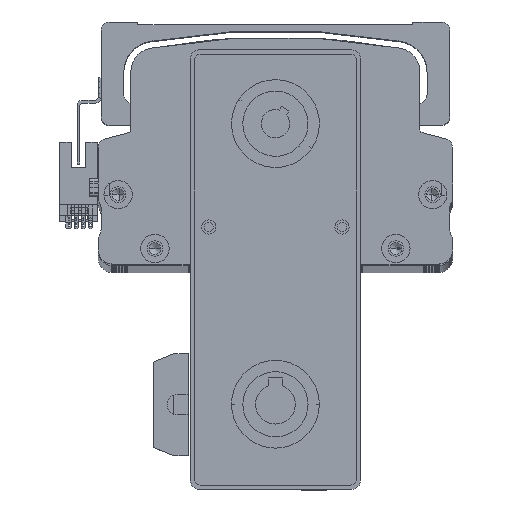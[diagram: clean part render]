
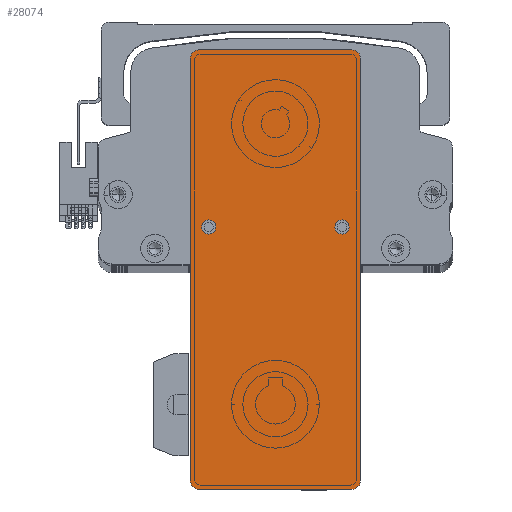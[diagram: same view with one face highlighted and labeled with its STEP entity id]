
A CAD part, top view. The second image highlights one B-rep face of the part: STEP entity #28074.
In plain terms, the highlighted planar face has unit normal (0, 0, 1) as drawn and (0, 0, -1) by its records, which use the part's own axes.
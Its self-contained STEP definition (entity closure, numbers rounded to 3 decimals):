
#1159 = AXIS2_PLACEMENT_3D ( 'NONE', #65308, #25672, #71907 ) ;
#1614 = DIRECTION ( 'NONE',  ( 0., 0., -1. ) ) ;
#5342 = DIRECTION ( 'NONE',  ( 0., 0., -1. ) ) ;
#6746 = EDGE_CURVE ( 'NONE', #33823, #28251, #82912, .T. ) ;
#7535 = CARTESIAN_POINT ( 'NONE',  ( 12.5, -23.5, 0. ) ) ;
#8365 = VERTEX_POINT ( 'NONE', #39423 ) ;
#10711 = LINE ( 'NONE', #40599, #78908 ) ;
#11767 = ORIENTED_EDGE ( 'NONE', *, *, #17959, .F. ) ;
#13147 = AXIS2_PLACEMENT_3D ( 'NONE', #15698, #61968, #22324 ) ;
#13772 = CARTESIAN_POINT ( 'NONE',  ( 77.5, -27., 0. ) ) ;
#14349 = DIRECTION ( 'NONE',  ( 0., 1., 0. ) ) ;
#14989 = ORIENTED_EDGE ( 'NONE', *, *, #28179, .T. ) ;
#15698 = CARTESIAN_POINT ( 'NONE',  ( 15., 23.5, 0. ) ) ;
#16078 = VERTEX_POINT ( 'NONE', #53960 ) ;
#16918 = CARTESIAN_POINT ( 'NONE',  ( 77.5, 27., 0. ) ) ;
#17219 = VERTEX_POINT ( 'NONE', #13772 ) ;
#17442 = VERTEX_POINT ( 'NONE', #16918 ) ;
#17959 = EDGE_CURVE ( 'NONE', #27984, #16078, #77944, .T. ) ;
#18338 = CIRCLE ( 'NONE', #47751, 3. ) ;
#19797 = ORIENTED_EDGE ( 'NONE', *, *, #35429, .F. ) ;
#20270 = ORIENTED_EDGE ( 'NONE', *, *, #48892, .F. ) ;
#21906 = VERTEX_POINT ( 'NONE', #61336 ) ;
#22324 = DIRECTION ( 'NONE',  ( -1., 0., 0. ) ) ;
#22535 = DIRECTION ( 'NONE',  ( 0., 0., -1. ) ) ;
#23040 = CIRCLE ( 'NONE', #1159, 3. ) ;
#23292 = ORIENTED_EDGE ( 'NONE', *, *, #66629, .F. ) ;
#23499 = CARTESIAN_POINT ( 'NONE',  ( 77.5, 30., 0. ) ) ;
#25472 = EDGE_LOOP ( 'NONE', ( #71732, #14989, #23292, #59823, #36138, #75487, #20270, #74168 ) ) ;
#25672 = DIRECTION ( 'NONE',  ( 0., 0., -1. ) ) ;
#26399 = EDGE_CURVE ( 'NONE', #16078, #27984, #64895, .T. ) ;
#27628 = EDGE_LOOP ( 'NONE', ( #19797, #48370 ) ) ;
#27956 = DIRECTION ( 'NONE',  ( 1., 0., 0. ) ) ;
#27984 = VERTEX_POINT ( 'NONE', #7535 ) ;
#28074 = ADVANCED_FACE ( 'NONE', ( #32414, #83119, #65540 ), #42439, .F. ) ;
#28179 = EDGE_CURVE ( 'NONE', #17219, #8365, #23040, .T. ) ;
#28251 = VERTEX_POINT ( 'NONE', #45877 ) ;
#28290 = VECTOR ( 'NONE', #36166, 1000. ) ;
#28896 = CARTESIAN_POINT ( 'NONE',  ( 15., 23.5, 0. ) ) ;
#29049 = CIRCLE ( 'NONE', #54643, 3. ) ;
#29325 = AXIS2_PLACEMENT_3D ( 'NONE', #36117, #82349, #42716 ) ;
#29454 = CARTESIAN_POINT ( 'NONE',  ( -77.5, -30., 0. ) ) ;
#30991 = EDGE_CURVE ( 'NONE', #35499, #21906, #18338, .T. ) ;
#31848 = DIRECTION ( 'NONE',  ( 0., 0., -1. ) ) ;
#32414 = FACE_BOUND ( 'NONE', #27628, .T. ) ;
#33823 = VERTEX_POINT ( 'NONE', #71311 ) ;
#35429 = EDGE_CURVE ( 'NONE', #28251, #33823, #80811, .T. ) ;
#35499 = VERTEX_POINT ( 'NONE', #36182 ) ;
#35530 = CARTESIAN_POINT ( 'NONE',  ( -77.5, 27., 0. ) ) ;
#35583 = DIRECTION ( 'NONE',  ( -1., 0., 0. ) ) ;
#35792 = CARTESIAN_POINT ( 'NONE',  ( -74.5, 30., 0. ) ) ;
#36117 = CARTESIAN_POINT ( 'NONE',  ( 0., 0., 0. ) ) ;
#36138 = ORIENTED_EDGE ( 'NONE', *, *, #49157, .F. ) ;
#36166 = DIRECTION ( 'NONE',  ( 0., -1., 0. ) ) ;
#36182 = CARTESIAN_POINT ( 'NONE',  ( -74.5, -30., 0. ) ) ;
#37271 = DIRECTION ( 'NONE',  ( 0., 0., -1. ) ) ;
#37500 = EDGE_LOOP ( 'NONE', ( #11767, #70522 ) ) ;
#39423 = CARTESIAN_POINT ( 'NONE',  ( 74.5, -30., 0. ) ) ;
#40599 = CARTESIAN_POINT ( 'NONE',  ( 77.5, -30., 0. ) ) ;
#40958 = CIRCLE ( 'NONE', #43577, 3. ) ;
#41165 = CARTESIAN_POINT ( 'NONE',  ( -74.5, 27., 0. ) ) ;
#42439 = PLANE ( 'NONE',  #29325 ) ;
#42716 = DIRECTION ( 'NONE',  ( 1., 0., 0. ) ) ;
#43577 = AXIS2_PLACEMENT_3D ( 'NONE', #76833, #37271, #83523 ) ;
#44930 = CARTESIAN_POINT ( 'NONE',  ( -74.5, -27., 0. ) ) ;
#45572 = LINE ( 'NONE', #54050, #78641 ) ;
#45877 = CARTESIAN_POINT ( 'NONE',  ( 12.5, 23.5, 0. ) ) ;
#45917 = EDGE_CURVE ( 'NONE', #71715, #17442, #40958, .T. ) ;
#47751 = AXIS2_PLACEMENT_3D ( 'NONE', #44930, #5342, #51663 ) ;
#47845 = DIRECTION ( 'NONE',  ( 1., 0., 0. ) ) ;
#48370 = ORIENTED_EDGE ( 'NONE', *, *, #6746, .F. ) ;
#48892 = EDGE_CURVE ( 'NONE', #71715, #51850, #70814, .T. ) ;
#49157 = EDGE_CURVE ( 'NONE', #66927, #21906, #83189, .T. ) ;
#50182 = EDGE_CURVE ( 'NONE', #66927, #51850, #29049, .T. ) ;
#51663 = DIRECTION ( 'NONE',  ( 1., 0., 0. ) ) ;
#51850 = VERTEX_POINT ( 'NONE', #35792 ) ;
#53960 = CARTESIAN_POINT ( 'NONE',  ( 17.5, -23.5, 0. ) ) ;
#54050 = CARTESIAN_POINT ( 'NONE',  ( 77.5, -30., 0. ) ) ;
#54284 = CARTESIAN_POINT ( 'NONE',  ( 74.5, 30., 0. ) ) ;
#54643 = AXIS2_PLACEMENT_3D ( 'NONE', #41165, #1614, #47845 ) ;
#59100 = AXIS2_PLACEMENT_3D ( 'NONE', #62171, #22535, #68828 ) ;
#59823 = ORIENTED_EDGE ( 'NONE', *, *, #30991, .T. ) ;
#61336 = CARTESIAN_POINT ( 'NONE',  ( -77.5, -27., 0. ) ) ;
#61968 = DIRECTION ( 'NONE',  ( 0., 0., -1. ) ) ;
#62171 = CARTESIAN_POINT ( 'NONE',  ( 15., -23.5, 0. ) ) ;
#62846 = DIRECTION ( 'NONE',  ( -1., 0., 0. ) ) ;
#64895 = CIRCLE ( 'NONE', #59100, 2.5 ) ;
#65308 = CARTESIAN_POINT ( 'NONE',  ( 74.5, -27., 0. ) ) ;
#65540 = FACE_OUTER_BOUND ( 'NONE', #25472, .T. ) ;
#66629 = EDGE_CURVE ( 'NONE', #35499, #8365, #45572, .T. ) ;
#66692 = VECTOR ( 'NONE', #62846, 1000. ) ;
#66927 = VERTEX_POINT ( 'NONE', #35530 ) ;
#68828 = DIRECTION ( 'NONE',  ( -1., 0., 0. ) ) ;
#70522 = ORIENTED_EDGE ( 'NONE', *, *, #26399, .F. ) ;
#70814 = LINE ( 'NONE', #23499, #66692 ) ;
#71311 = CARTESIAN_POINT ( 'NONE',  ( 17.5, 23.5, 0. ) ) ;
#71437 = CARTESIAN_POINT ( 'NONE',  ( 15., -23.5, 0. ) ) ;
#71715 = VERTEX_POINT ( 'NONE', #54284 ) ;
#71732 = ORIENTED_EDGE ( 'NONE', *, *, #76866, .F. ) ;
#71907 = DIRECTION ( 'NONE',  ( 1., 0., 0. ) ) ;
#72773 = AXIS2_PLACEMENT_3D ( 'NONE', #71437, #31848, #78053 ) ;
#74168 = ORIENTED_EDGE ( 'NONE', *, *, #45917, .T. ) ;
#74694 = AXIS2_PLACEMENT_3D ( 'NONE', #28896, #75140, #35583 ) ;
#75140 = DIRECTION ( 'NONE',  ( 0., 0., -1. ) ) ;
#75487 = ORIENTED_EDGE ( 'NONE', *, *, #50182, .T. ) ;
#76833 = CARTESIAN_POINT ( 'NONE',  ( 74.5, 27., 0. ) ) ;
#76866 = EDGE_CURVE ( 'NONE', #17219, #17442, #10711, .T. ) ;
#77944 = CIRCLE ( 'NONE', #72773, 2.5 ) ;
#78053 = DIRECTION ( 'NONE',  ( -1., 0., 0. ) ) ;
#78641 = VECTOR ( 'NONE', #27956, 1000. ) ;
#78908 = VECTOR ( 'NONE', #14349, 1000. ) ;
#80811 = CIRCLE ( 'NONE', #74694, 2.5 ) ;
#82349 = DIRECTION ( 'NONE',  ( 0., 0., 1. ) ) ;
#82912 = CIRCLE ( 'NONE', #13147, 2.5 ) ;
#83119 = FACE_BOUND ( 'NONE', #37500, .T. ) ;
#83189 = LINE ( 'NONE', #29454, #28290 ) ;
#83523 = DIRECTION ( 'NONE',  ( 1., 0., 0. ) ) ;
